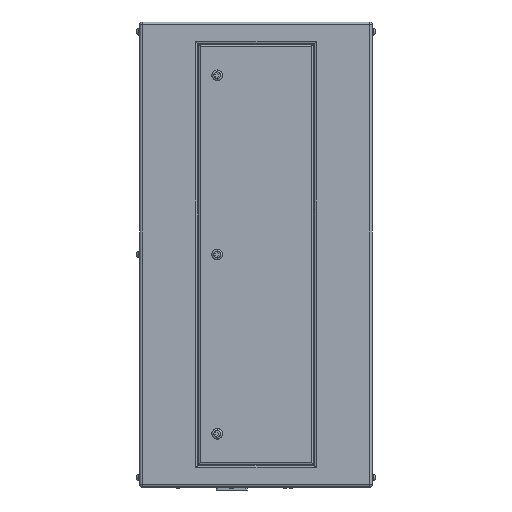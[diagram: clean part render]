
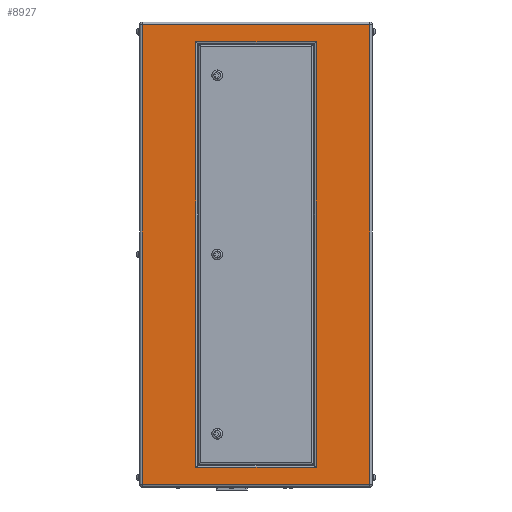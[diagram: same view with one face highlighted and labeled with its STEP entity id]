
A CAD part, left-side view. The second image highlights one B-rep face of the part: STEP entity #8927.
In plain terms, the highlighted planar face has unit normal (-1, 0, 0).
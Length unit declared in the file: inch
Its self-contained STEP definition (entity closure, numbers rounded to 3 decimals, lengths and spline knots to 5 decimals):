
#507 = VECTOR ( 'NONE', #14282, 39.37008 ) ;
#1003 = CARTESIAN_POINT ( 'NONE',  ( -16., -6.2, -21.95 ) ) ;
#1905 = VECTOR ( 'NONE', #5604, 39.37008 ) ;
#2744 = ORIENTED_EDGE ( 'NONE', *, *, #22154, .T. ) ;
#3570 = ORIENTED_EDGE ( 'NONE', *, *, #32829, .T. ) ;
#4913 = VERTEX_POINT ( 'NONE', #5517 ) ;
#5517 = CARTESIAN_POINT ( 'NONE',  ( -16., -11.734, -23.734 ) ) ;
#5553 = CARTESIAN_POINT ( 'NONE',  ( -16., -6.2, 21.95 ) ) ;
#5604 = DIRECTION ( 'NONE',  ( 0., 0., 1. ) ) ;
#6962 = EDGE_CURVE ( 'NONE', #16554, #8664, #25191, .T. ) ;
#7249 = CARTESIAN_POINT ( 'NONE',  ( -16., 12., -23.734 ) ) ;
#8500 = CARTESIAN_POINT ( 'NONE',  ( -16., 11.734, -24. ) ) ;
#8664 = VERTEX_POINT ( 'NONE', #27329 ) ;
#8927 = ADVANCED_FACE ( 'NONE', ( #25321, #36872 ), #22478, .F. ) ;
#9983 = CARTESIAN_POINT ( 'NONE',  ( -16., 6.2, -21.95 ) ) ;
#10283 = CARTESIAN_POINT ( 'NONE',  ( -16., -6., 21.95 ) ) ;
#10477 = DIRECTION ( 'NONE',  ( 0., -1., 0. ) ) ;
#10734 = ORIENTED_EDGE ( 'NONE', *, *, #23805, .T. ) ;
#10932 = CARTESIAN_POINT ( 'NONE',  ( -16., 6.2, 21.75 ) ) ;
#11359 = LINE ( 'NONE', #8500, #34884 ) ;
#11390 = VECTOR ( 'NONE', #10477, 39.37008 ) ;
#11541 = CARTESIAN_POINT ( 'NONE',  ( -16., 11.734, 23.734 ) ) ;
#11677 = ORIENTED_EDGE ( 'NONE', *, *, #25921, .T. ) ;
#12481 = DIRECTION ( 'NONE',  ( 0., 0., -1. ) ) ;
#13708 = DIRECTION ( 'NONE',  ( 0., 0., -1. ) ) ;
#14204 = CARTESIAN_POINT ( 'NONE',  ( -16., -11.734, 23.734 ) ) ;
#14251 = EDGE_LOOP ( 'NONE', ( #2744, #10734, #20234, #22699 ) ) ;
#14282 = DIRECTION ( 'NONE',  ( 0., 1., 0. ) ) ;
#14596 = EDGE_CURVE ( 'NONE', #18996, #31760, #17322, .T. ) ;
#16554 = VERTEX_POINT ( 'NONE', #9983 ) ;
#16720 = AXIS2_PLACEMENT_3D ( 'NONE', #29035, #34737, #13708 ) ;
#17036 = DIRECTION ( 'NONE',  ( 0., 0., 1. ) ) ;
#17322 = LINE ( 'NONE', #32318, #507 ) ;
#18214 = LINE ( 'NONE', #26942, #19246 ) ;
#18508 = LINE ( 'NONE', #7249, #11390 ) ;
#18675 = VECTOR ( 'NONE', #30003, 39.37008 ) ;
#18996 = VERTEX_POINT ( 'NONE', #14204 ) ;
#19246 = VECTOR ( 'NONE', #12481, 39.37008 ) ;
#19577 = EDGE_LOOP ( 'NONE', ( #11677, #3570, #23488, #29355 ) ) ;
#20234 = ORIENTED_EDGE ( 'NONE', *, *, #14596, .T. ) ;
#21067 = VECTOR ( 'NONE', #22458, 39.37008 ) ;
#21104 = CARTESIAN_POINT ( 'NONE',  ( -16., 6., -21.95 ) ) ;
#22154 = EDGE_CURVE ( 'NONE', #24761, #4913, #18508, .T. ) ;
#22458 = DIRECTION ( 'NONE',  ( 0., -1., 0. ) ) ;
#22478 = PLANE ( 'NONE',  #16720 ) ;
#22699 = ORIENTED_EDGE ( 'NONE', *, *, #31745, .T. ) ;
#23034 = VECTOR ( 'NONE', #17036, 39.37008 ) ;
#23488 = ORIENTED_EDGE ( 'NONE', *, *, #34322, .T. ) ;
#23805 = EDGE_CURVE ( 'NONE', #4913, #18996, #25388, .T. ) ;
#24761 = VERTEX_POINT ( 'NONE', #32957 ) ;
#25191 = LINE ( 'NONE', #10932, #1905 ) ;
#25321 = FACE_BOUND ( 'NONE', #19577, .T. ) ;
#25388 = LINE ( 'NONE', #37307, #23034 ) ;
#25921 = EDGE_CURVE ( 'NONE', #8664, #33438, #31172, .T. ) ;
#26000 = DIRECTION ( 'NONE',  ( 0., 0., -1. ) ) ;
#26942 = CARTESIAN_POINT ( 'NONE',  ( -16., -6.2, -21.75 ) ) ;
#27329 = CARTESIAN_POINT ( 'NONE',  ( -16., 6.2, 21.95 ) ) ;
#27729 = VERTEX_POINT ( 'NONE', #1003 ) ;
#29035 = CARTESIAN_POINT ( 'NONE',  ( -16., 12., -24. ) ) ;
#29355 = ORIENTED_EDGE ( 'NONE', *, *, #6962, .T. ) ;
#29438 = LINE ( 'NONE', #21104, #18675 ) ;
#30003 = DIRECTION ( 'NONE',  ( 0., 1., 0. ) ) ;
#31172 = LINE ( 'NONE', #10283, #21067 ) ;
#31745 = EDGE_CURVE ( 'NONE', #31760, #24761, #11359, .T. ) ;
#31760 = VERTEX_POINT ( 'NONE', #11541 ) ;
#32318 = CARTESIAN_POINT ( 'NONE',  ( -16., 12., 23.734 ) ) ;
#32829 = EDGE_CURVE ( 'NONE', #33438, #27729, #18214, .T. ) ;
#32957 = CARTESIAN_POINT ( 'NONE',  ( -16., 11.734, -23.734 ) ) ;
#33438 = VERTEX_POINT ( 'NONE', #5553 ) ;
#34322 = EDGE_CURVE ( 'NONE', #27729, #16554, #29438, .T. ) ;
#34737 = DIRECTION ( 'NONE',  ( 1., 0., 0. ) ) ;
#34884 = VECTOR ( 'NONE', #26000, 39.37008 ) ;
#36872 = FACE_OUTER_BOUND ( 'NONE', #14251, .T. ) ;
#37307 = CARTESIAN_POINT ( 'NONE',  ( -16., -11.734, 23.734 ) ) ;
